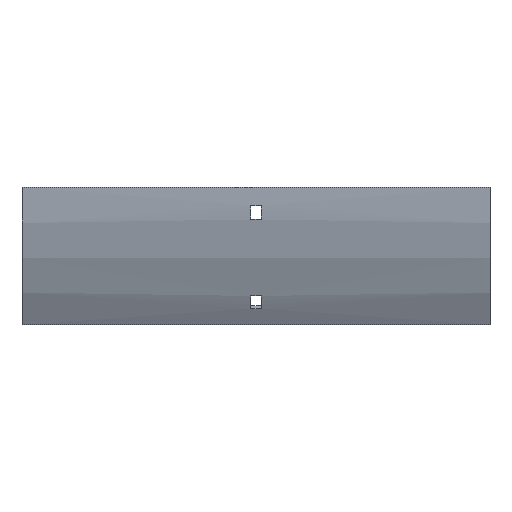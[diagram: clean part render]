
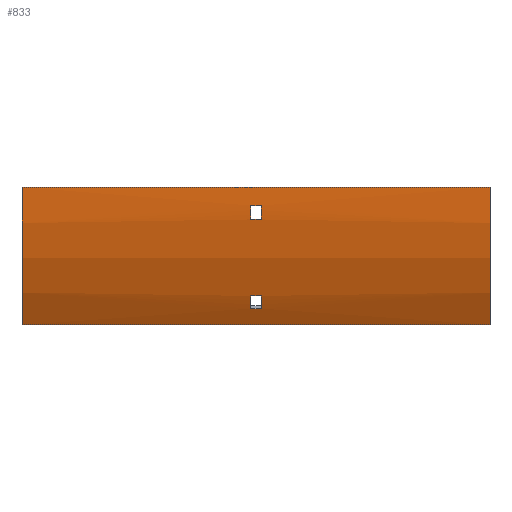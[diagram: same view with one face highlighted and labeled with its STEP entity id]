
A CAD part, front view. The second image highlights one B-rep face of the part: STEP entity #833.
In plain terms, the highlighted cylindrical face has radius 179 mm (diameter 358 mm), a partial arc.
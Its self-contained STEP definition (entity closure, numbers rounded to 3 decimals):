
#5 = CARTESIAN_POINT ( 'NONE',  ( -3.25, -64.448, -70.695 ) ) ;
#26 = DIRECTION ( 'NONE',  ( 1., 0., 0. ) ) ;
#28 = DIRECTION ( 'NONE',  ( -1., 0., 0. ) ) ;
#33 = LINE ( 'NONE', #1078, #596 ) ;
#35 = ORIENTED_EDGE ( 'NONE', *, *, #215, .T. ) ;
#41 = DIRECTION ( 'NONE',  ( 0., 0., 1. ) ) ;
#49 = DIRECTION ( 'NONE',  ( -1., 0., 0. ) ) ;
#60 = CARTESIAN_POINT ( 'NONE',  ( 152., -60.67, -78.906 ) ) ;
#142 = EDGE_CURVE ( 'NONE', #822, #1001, #1630, .T. ) ;
#143 = DIRECTION ( 'NONE',  ( 0., 0., -1. ) ) ;
#157 = FACE_OUTER_BOUND ( 'NONE', #1282, .T. ) ;
#167 = EDGE_CURVE ( 'NONE', #947, #1001, #844, .T. ) ;
#168 = CARTESIAN_POINT ( 'NONE',  ( 3.25, 100., 0. ) ) ;
#172 = VERTEX_POINT ( 'NONE', #1230 ) ;
#195 = DIRECTION ( 'NONE',  ( 1., 0., 0. ) ) ;
#207 = EDGE_CURVE ( 'NONE', #1020, #947, #33, .T. ) ;
#215 = EDGE_CURVE ( 'NONE', #1601, #534, #1561, .T. ) ;
#265 = EDGE_LOOP ( 'NONE', ( #1559, #526, #1228, #1214 ) ) ;
#269 = ORIENTED_EDGE ( 'NONE', *, *, #1664, .T. ) ;
#274 = ORIENTED_EDGE ( 'NONE', *, *, #207, .T. ) ;
#282 = ORIENTED_EDGE ( 'NONE', *, *, #142, .F. ) ;
#283 = DIRECTION ( 'NONE',  ( -1., 0., 0. ) ) ;
#285 = VECTOR ( 'NONE', #421, 1000. ) ;
#296 = CARTESIAN_POINT ( 'NONE',  ( -3.25, -77.764, -21. ) ) ;
#299 = CARTESIAN_POINT ( 'NONE',  ( 152., -55.019, -89.5 ) ) ;
#302 = CARTESIAN_POINT ( 'NONE',  ( -152., 100., 0. ) ) ;
#307 = ORIENTED_EDGE ( 'NONE', *, *, #733, .T. ) ;
#311 = CYLINDRICAL_SURFACE ( 'NONE', #925, 179. ) ;
#316 = EDGE_CURVE ( 'NONE', #429, #172, #1368, .T. ) ;
#325 = CIRCLE ( 'NONE', #921, 179. ) ;
#397 = AXIS2_PLACEMENT_3D ( 'NONE', #420, #944, #1475 ) ;
#399 = DIRECTION ( 'NONE',  ( 1., 0., 0. ) ) ;
#419 = EDGE_CURVE ( 'NONE', #534, #1044, #867, .T. ) ;
#420 = CARTESIAN_POINT ( 'NONE',  ( -3.25, 100., 0. ) ) ;
#421 = DIRECTION ( 'NONE',  ( -1., 0., 0. ) ) ;
#429 = VERTEX_POINT ( 'NONE', #1681 ) ;
#430 = LINE ( 'NONE', #1352, #285 ) ;
#437 = ORIENTED_EDGE ( 'NONE', *, *, #419, .T. ) ;
#456 = CARTESIAN_POINT ( 'NONE',  ( 3.25, -77.764, -21. ) ) ;
#467 = CARTESIAN_POINT ( 'NONE',  ( 152., -78.597, -12. ) ) ;
#472 = CARTESIAN_POINT ( 'NONE',  ( 152., -79., 0. ) ) ;
#478 = CARTESIAN_POINT ( 'NONE',  ( -152., -55.019, -89.5 ) ) ;
#491 = CARTESIAN_POINT ( 'NONE',  ( -3.25, -78.597, -12. ) ) ;
#526 = ORIENTED_EDGE ( 'NONE', *, *, #648, .F. ) ;
#534 = VERTEX_POINT ( 'NONE', #491 ) ;
#596 = VECTOR ( 'NONE', #1602, 1000. ) ;
#621 = VECTOR ( 'NONE', #195, 1000. ) ;
#627 = EDGE_LOOP ( 'NONE', ( #269, #35, #437, #307 ) ) ;
#648 = EDGE_CURVE ( 'NONE', #1639, #1157, #430, .T. ) ;
#668 = DIRECTION ( 'NONE',  ( -1., 0., 0. ) ) ;
#678 = FACE_BOUND ( 'NONE', #627, .T. ) ;
#716 = CIRCLE ( 'NONE', #1103, 179. ) ;
#720 = VECTOR ( 'NONE', #997, 1000. ) ;
#732 = EDGE_CURVE ( 'NONE', #172, #1639, #1150, .T. ) ;
#733 = EDGE_CURVE ( 'NONE', #1044, #1077, #325, .T. ) ;
#777 = CIRCLE ( 'NONE', #1136, 179. ) ;
#807 = CARTESIAN_POINT ( 'NONE',  ( -152., -79., 0. ) ) ;
#822 = VERTEX_POINT ( 'NONE', #299 ) ;
#823 = CARTESIAN_POINT ( 'NONE',  ( 152., 100., 0. ) ) ;
#827 = DIRECTION ( 'NONE',  ( 0., 0., -1. ) ) ;
#828 = EDGE_CURVE ( 'NONE', #1020, #822, #716, .T. ) ;
#833 = ADVANCED_FACE ( 'NONE', ( #157, #678, #1084 ), #311, .T. ) ;
#844 = CIRCLE ( 'NONE', #1508, 179. ) ;
#846 = ORIENTED_EDGE ( 'NONE', *, *, #828, .F. ) ;
#861 = DIRECTION ( 'NONE',  ( 0., 0., 1. ) ) ;
#867 = LINE ( 'NONE', #467, #720 ) ;
#914 = EDGE_CURVE ( 'NONE', #1157, #429, #777, .T. ) ;
#921 = AXIS2_PLACEMENT_3D ( 'NONE', #1093, #1367, #1624 ) ;
#925 = AXIS2_PLACEMENT_3D ( 'NONE', #1494, #668, #41 ) ;
#940 = LINE ( 'NONE', #1345, #1547 ) ;
#944 = DIRECTION ( 'NONE',  ( -1., 0., 0. ) ) ;
#947 = VERTEX_POINT ( 'NONE', #807 ) ;
#997 = DIRECTION ( 'NONE',  ( 1., 0., 0. ) ) ;
#1001 = VERTEX_POINT ( 'NONE', #478 ) ;
#1004 = AXIS2_PLACEMENT_3D ( 'NONE', #168, #49, #861 ) ;
#1020 = VERTEX_POINT ( 'NONE', #472 ) ;
#1044 = VERTEX_POINT ( 'NONE', #1531 ) ;
#1077 = VERTEX_POINT ( 'NONE', #456 ) ;
#1078 = CARTESIAN_POINT ( 'NONE',  ( 152., -79., 0. ) ) ;
#1084 = FACE_BOUND ( 'NONE', #265, .T. ) ;
#1093 = CARTESIAN_POINT ( 'NONE',  ( 3.25, 100., 0. ) ) ;
#1103 = AXIS2_PLACEMENT_3D ( 'NONE', #823, #1227, #143 ) ;
#1136 = AXIS2_PLACEMENT_3D ( 'NONE', #1582, #399, #1457 ) ;
#1150 = CIRCLE ( 'NONE', #1004, 179. ) ;
#1157 = VERTEX_POINT ( 'NONE', #5 ) ;
#1213 = CARTESIAN_POINT ( 'NONE',  ( 3.25, -64.448, -70.695 ) ) ;
#1214 = ORIENTED_EDGE ( 'NONE', *, *, #316, .F. ) ;
#1224 = ORIENTED_EDGE ( 'NONE', *, *, #167, .T. ) ;
#1227 = DIRECTION ( 'NONE',  ( 1., 0., 0. ) ) ;
#1228 = ORIENTED_EDGE ( 'NONE', *, *, #732, .F. ) ;
#1230 = CARTESIAN_POINT ( 'NONE',  ( 3.25, -60.67, -78.906 ) ) ;
#1240 = CARTESIAN_POINT ( 'NONE',  ( 152., -55.019, -89.5 ) ) ;
#1282 = EDGE_LOOP ( 'NONE', ( #1224, #282, #846, #274 ) ) ;
#1343 = VECTOR ( 'NONE', #283, 1000. ) ;
#1345 = CARTESIAN_POINT ( 'NONE',  ( 152., -77.764, -21. ) ) ;
#1352 = CARTESIAN_POINT ( 'NONE',  ( 152., -64.448, -70.695 ) ) ;
#1367 = DIRECTION ( 'NONE',  ( 1., 0., 0. ) ) ;
#1368 = LINE ( 'NONE', #60, #621 ) ;
#1457 = DIRECTION ( 'NONE',  ( 0., 0., -1. ) ) ;
#1475 = DIRECTION ( 'NONE',  ( 0., 0., 1. ) ) ;
#1494 = CARTESIAN_POINT ( 'NONE',  ( 152., 100., 0. ) ) ;
#1508 = AXIS2_PLACEMENT_3D ( 'NONE', #302, #26, #827 ) ;
#1531 = CARTESIAN_POINT ( 'NONE',  ( 3.25, -78.597, -12. ) ) ;
#1547 = VECTOR ( 'NONE', #28, 1000. ) ;
#1559 = ORIENTED_EDGE ( 'NONE', *, *, #914, .F. ) ;
#1561 = CIRCLE ( 'NONE', #397, 179. ) ;
#1582 = CARTESIAN_POINT ( 'NONE',  ( -3.25, 100., 0. ) ) ;
#1601 = VERTEX_POINT ( 'NONE', #296 ) ;
#1602 = DIRECTION ( 'NONE',  ( -1., 0., 0. ) ) ;
#1624 = DIRECTION ( 'NONE',  ( 0., 0., -1. ) ) ;
#1630 = LINE ( 'NONE', #1240, #1343 ) ;
#1639 = VERTEX_POINT ( 'NONE', #1213 ) ;
#1664 = EDGE_CURVE ( 'NONE', #1077, #1601, #940, .T. ) ;
#1681 = CARTESIAN_POINT ( 'NONE',  ( -3.25, -60.67, -78.906 ) ) ;
